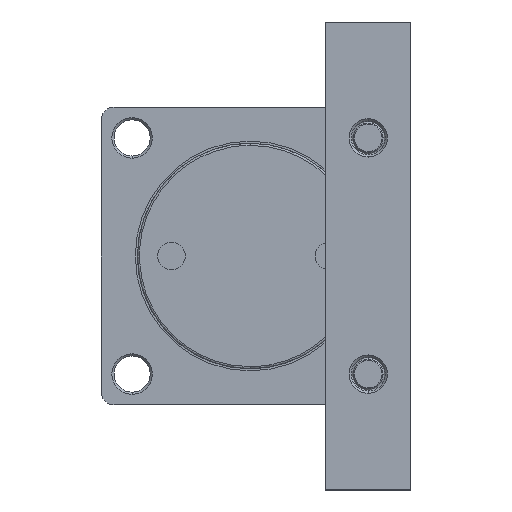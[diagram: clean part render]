
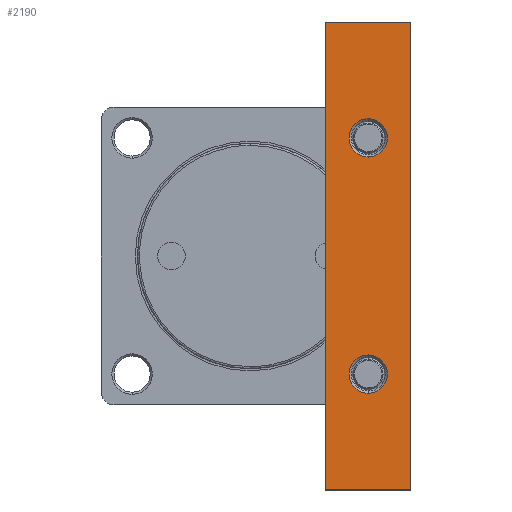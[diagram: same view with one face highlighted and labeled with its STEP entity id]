
A CAD part, left-side view. The second image highlights one B-rep face of the part: STEP entity #2190.
In plain terms, the highlighted planar face has unit normal (1, 0, 0).
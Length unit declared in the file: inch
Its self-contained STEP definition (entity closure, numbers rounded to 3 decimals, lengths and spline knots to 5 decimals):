
#312 = CARTESIAN_POINT ( 'NONE',  ( -2.61811, -1.39764, 4.33071 ) ) ;
#381 = DIRECTION ( 'NONE',  ( -1., 0., 0. ) ) ;
#392 = ORIENTED_EDGE ( 'NONE', *, *, #13083, .T. ) ;
#695 = CIRCLE ( 'NONE', #12007, 0.35433 ) ;
#850 = EDGE_CURVE ( 'NONE', #4974, #5391, #695, .T. ) ;
#919 = ORIENTED_EDGE ( 'NONE', *, *, #850, .T. ) ;
#1300 = ORIENTED_EDGE ( 'NONE', *, *, #9575, .T. ) ;
#1339 = DIRECTION ( 'NONE',  ( 0., 0., 1. ) ) ;
#1351 = DIRECTION ( 'NONE',  ( -1., 0., 0. ) ) ;
#1353 = VECTOR ( 'NONE', #1560, 39.37008 ) ;
#1359 = DIRECTION ( 'NONE',  ( 0., 0., 1. ) ) ;
#1370 = CARTESIAN_POINT ( 'NONE',  ( -2.61811, -2.18504, 2.18504 ) ) ;
#1418 = LINE ( 'NONE', #9000, #1353 ) ;
#1560 = DIRECTION ( 'NONE',  ( 0., 0., 1. ) ) ;
#1574 = EDGE_LOOP ( 'NONE', ( #392, #2990 ) ) ;
#2190 = ADVANCED_FACE ( 'NONE', ( #2664, #2540, #2663 ), #9403, .T. ) ;
#2260 = ORIENTED_EDGE ( 'NONE', *, *, #12303, .T. ) ;
#2309 = DIRECTION ( 'NONE',  ( 0., -1., 0. ) ) ;
#2313 = ORIENTED_EDGE ( 'NONE', *, *, #3912, .T. ) ;
#2502 = VERTEX_POINT ( 'NONE', #2809 ) ;
#2540 = FACE_BOUND ( 'NONE', #7902, .T. ) ;
#2663 = FACE_BOUND ( 'NONE', #1574, .T. ) ;
#2664 = FACE_OUTER_BOUND ( 'NONE', #8979, .T. ) ;
#2748 = VECTOR ( 'NONE', #8445, 39.37008 ) ;
#2758 = CIRCLE ( 'NONE', #13354, 0.35433 ) ;
#2787 = LINE ( 'NONE', #7383, #2748 ) ;
#2809 = CARTESIAN_POINT ( 'NONE',  ( -2.61811, -2.97244, 4.33071 ) ) ;
#2990 = ORIENTED_EDGE ( 'NONE', *, *, #3477, .T. ) ;
#3477 = EDGE_CURVE ( 'NONE', #5352, #8279, #4385, .T. ) ;
#3912 = EDGE_CURVE ( 'NONE', #5033, #11528, #4992, .T. ) ;
#4222 = CARTESIAN_POINT ( 'NONE',  ( -2.61811, -2.97244, -4.33071 ) ) ;
#4385 = CIRCLE ( 'NONE', #8310, 0.35433 ) ;
#4582 = CARTESIAN_POINT ( 'NONE',  ( -2.61811, -1.39764, -4.33071 ) ) ;
#4974 = VERTEX_POINT ( 'NONE', #12373 ) ;
#4992 = LINE ( 'NONE', #12794, #5050 ) ;
#5033 = VERTEX_POINT ( 'NONE', #4222 ) ;
#5050 = VECTOR ( 'NONE', #11941, 39.37008 ) ;
#5160 = CARTESIAN_POINT ( 'NONE',  ( -2.61811, -2.18504, 2.18504 ) ) ;
#5352 = VERTEX_POINT ( 'NONE', #8064 ) ;
#5382 = DIRECTION ( 'NONE',  ( -1., 0., 0. ) ) ;
#5391 = VERTEX_POINT ( 'NONE', #7953 ) ;
#6289 = VERTEX_POINT ( 'NONE', #312 ) ;
#7383 = CARTESIAN_POINT ( 'NONE',  ( -2.61811, -2.97244, 4.33071 ) ) ;
#7806 = AXIS2_PLACEMENT_3D ( 'NONE', #5160, #8395, #1359 ) ;
#7902 = EDGE_LOOP ( 'NONE', ( #1300, #919 ) ) ;
#7953 = CARTESIAN_POINT ( 'NONE',  ( -2.61811, -2.18504, 2.53937 ) ) ;
#8064 = CARTESIAN_POINT ( 'NONE',  ( -2.61811, -2.18504, -2.53937 ) ) ;
#8279 = VERTEX_POINT ( 'NONE', #10740 ) ;
#8310 = AXIS2_PLACEMENT_3D ( 'NONE', #12629, #381, #9054 ) ;
#8395 = DIRECTION ( 'NONE',  ( -1., 0., 0. ) ) ;
#8445 = DIRECTION ( 'NONE',  ( 0., 0., -1. ) ) ;
#8803 = ORIENTED_EDGE ( 'NONE', *, *, #13061, .T. ) ;
#8979 = EDGE_LOOP ( 'NONE', ( #2260, #10192, #8803, #2313 ) ) ;
#9000 = CARTESIAN_POINT ( 'NONE',  ( -2.61811, -1.39764, 4.33071 ) ) ;
#9054 = DIRECTION ( 'NONE',  ( 0., 0., 1. ) ) ;
#9273 = EDGE_CURVE ( 'NONE', #6289, #2502, #13421, .T. ) ;
#9297 = DIRECTION ( 'NONE',  ( 0., 0., -1. ) ) ;
#9313 = DIRECTION ( 'NONE',  ( 1., 0., 0. ) ) ;
#9403 = PLANE ( 'NONE',  #10307 ) ;
#9415 = CARTESIAN_POINT ( 'NONE',  ( -2.61811, -2.97244, 4.33071 ) ) ;
#9575 = EDGE_CURVE ( 'NONE', #5391, #4974, #10658, .T. ) ;
#10100 = CARTESIAN_POINT ( 'NONE',  ( -2.61811, -2.97244, 4.33071 ) ) ;
#10192 = ORIENTED_EDGE ( 'NONE', *, *, #9273, .T. ) ;
#10307 = AXIS2_PLACEMENT_3D ( 'NONE', #9415, #9313, #9297 ) ;
#10658 = CIRCLE ( 'NONE', #7806, 0.35433 ) ;
#10740 = CARTESIAN_POINT ( 'NONE',  ( -2.61811, -2.18504, -1.83071 ) ) ;
#11528 = VERTEX_POINT ( 'NONE', #4582 ) ;
#11589 = CARTESIAN_POINT ( 'NONE',  ( -2.61811, -2.18504, -2.18504 ) ) ;
#11941 = DIRECTION ( 'NONE',  ( 0., 1., 0. ) ) ;
#12007 = AXIS2_PLACEMENT_3D ( 'NONE', #1370, #1351, #1339 ) ;
#12303 = EDGE_CURVE ( 'NONE', #11528, #6289, #1418, .T. ) ;
#12373 = CARTESIAN_POINT ( 'NONE',  ( -2.61811, -2.18504, 1.83071 ) ) ;
#12588 = DIRECTION ( 'NONE',  ( 0., 0., 1. ) ) ;
#12629 = CARTESIAN_POINT ( 'NONE',  ( -2.61811, -2.18504, -2.18504 ) ) ;
#12794 = CARTESIAN_POINT ( 'NONE',  ( -2.61811, -2.97244, -4.33071 ) ) ;
#13061 = EDGE_CURVE ( 'NONE', #2502, #5033, #2787, .T. ) ;
#13083 = EDGE_CURVE ( 'NONE', #8279, #5352, #2758, .T. ) ;
#13354 = AXIS2_PLACEMENT_3D ( 'NONE', #11589, #5382, #12588 ) ;
#13421 = LINE ( 'NONE', #10100, #13483 ) ;
#13483 = VECTOR ( 'NONE', #2309, 39.37008 ) ;
